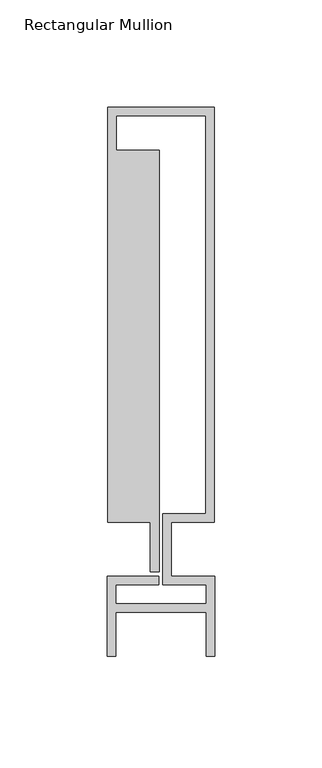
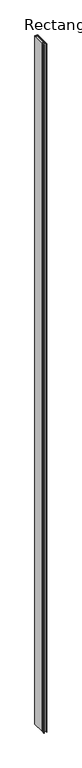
"""IFC4 building model written with IfcOpenShell, lengths in millimetres: member geometry, Rectangular Mullion : Reynaers_CW-50_Mullion-Transom_Horizontal_193.4mm_Facecap-03."""

from ifc_helpers import new_model, si_unit, frame, origin, place, context, project, spatial, polyline, outline, extrude, source, transform, mapped, element, save


def rectangular_mullion_7831559f(model_context):
    return source(origin(), model_context, "Body", "SweptSolid", [
        extrude(outline(polyline([(-24.8004059, 205.9), (24.8004059, 205.9), (24.8004059, 12.5), (4.9004059, 12.5), (4.9004059, -12.5), (24.994845, -12.5), (24.994845, -49.8), (20.994845, -49.8), (20.994845, -29.3268728), (-20.994845, -29.3268728), (-20.994845, -49.8), (-24.994845, -49.8), (-24.994845, -12.5), (-1.0995941, -12.5), (-1.0995941, -16.5), (-20.994845, -16.5), (-20.994845, -25.3268728), (20.994845, -25.3268728), (20.994845, -16.5), (0.9004059, -16.5), (0.9004059, 16.5), (20.8004059, 16.5), (20.8004059, 201.9), (-20.8004059, 201.9), (-20.8004059, 186.0), (-0.9004059, 186.0), (-0.9004059, -10.5), (-4.9004059, -10.5), (-4.9004059, 12.5), (-24.8004059, 12.5), (-24.8004059, 205.9)])), frame((0.0, 0.0, -12000.0), z_axis=(0.0, 0.0, 1.0), x_axis=(1.0, 0.0, 0.0)), (0.0, 0.0, 1.0), 12000.0),
    ])


if __name__ == "__main__":
    model = new_model("IFC4")
    model_context = context("Model", 3, world=origin())
    ifc_project = project(units=[si_unit("LENGTHUNIT", "METRE", prefix="MILLI")], contexts=[model_context])
    site = spatial("IfcSite", under=ifc_project)
    building = spatial("IfcBuilding", under=site)
    placement = place(None, origin())
    rectangular_mullion_shape = rectangular_mullion_7831559f(model_context)
    element("IfcMember", 1, ObjectType="Rectangular Mullion : Reynaers_CW-50_Mullion-Transom_Horizontal_193.4mm_Facecap-03", at=placement, inside=building, context=model_context, shape_type="MappedRepresentation", body=[
        mapped(rectangular_mullion_shape, transform((0.0, 0.0, 0.0), x_axis=(1.0, 0.0, 0.0), y_axis=(0.0, 1.0, 0.0), z_axis=(0.0, 0.0, 1.0))),
    ])
    save(model, "model.ifc")
